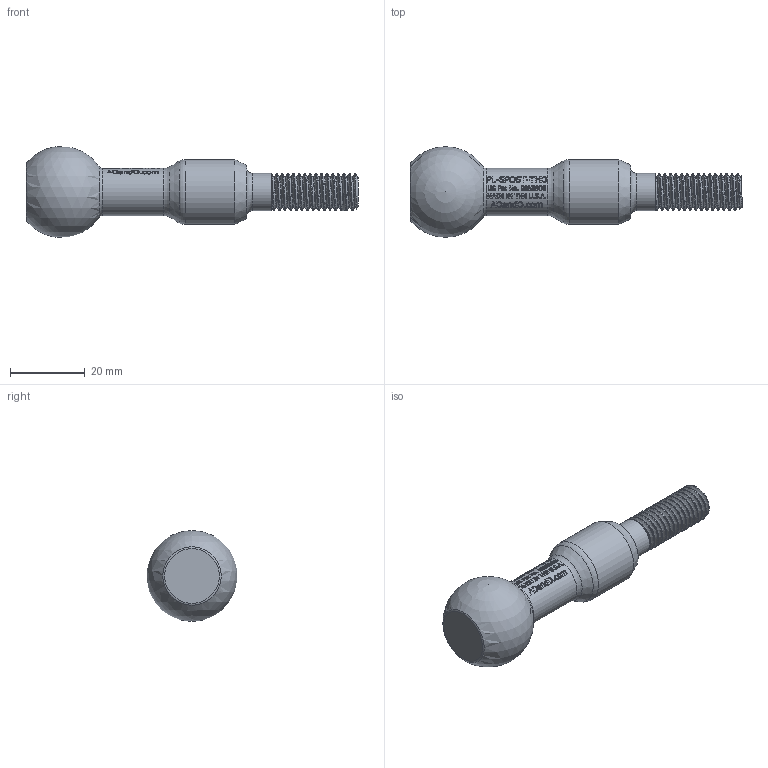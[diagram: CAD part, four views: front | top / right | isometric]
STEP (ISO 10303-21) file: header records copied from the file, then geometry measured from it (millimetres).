
FILE_DESCRIPTION(/* description */ ('Standard Post -Threaded End'),/* implementation_level */ '2;1');
FILE_NAME(/* name */ 'C:\Users\Doug Biddinger\Desktop\THREADED POST UPDATES\PL-SPOST-THD.stp',/* time_stamp */ '2019-02-28T15:04:31-05:00',/* author */ ('Doug Biddinger'),/* organization */ (''),/* preprocessor_version */ 'ST-DEVELOPER v17',/* originating_system */ 'Autodesk Inventor 2019',/* authorisation */ '');
FILE_SCHEMA (('CONFIG_CONTROL_DESIGN'));
Length unit declared in the file: inch
Products named in the file (1): 60001
Bounding box: 88.9 x 24.19 x 24.37 mm (x, y, z)
Volume: 15881.2 mm3; surface area: 6591 mm2
Topology: 2 solids, 2 shells, 827 faces, 2262 edges, 1512 vertices
Faces by surface type: bspline 395, plane 326, cylinder 95, cone 5, torus 5, sphere 1
Full cylindrical faces by diameter (mm): 4.978 x1, 8.042 x2, 10 x16, 12.611 x1, 17.399 x1
Entity records: 42286 total; most frequent: CARTESIAN_POINT 23648, ORIENTED_EDGE 4518, DIRECTION 2658, EDGE_CURVE 2259, VERTEX_POINT 1512, LINE 1064, VECTOR 1064, EDGE_LOOP 905
